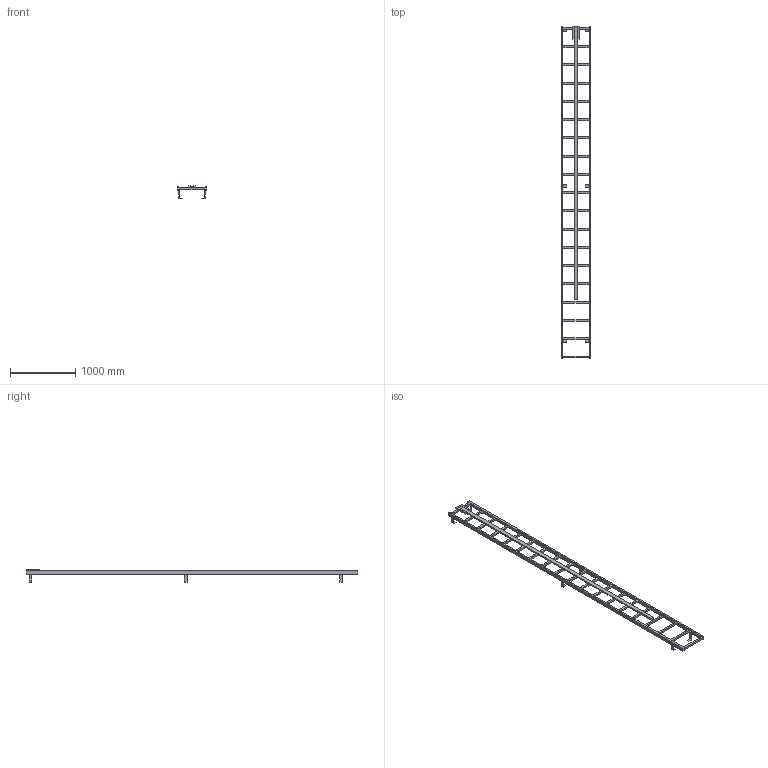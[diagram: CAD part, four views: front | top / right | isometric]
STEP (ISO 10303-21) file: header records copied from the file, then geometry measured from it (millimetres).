
FILE_DESCRIPTION((''),'2;1');
FILE_NAME('017_000109','2017-06-19T',('set'),('HUBER SE'),'PRO/ENGINEER BY PARAMETRIC TECHNOLOGY CORPORATION, 2015280','PRO/ENGINEER BY PARAMETRIC TECHNOLOGY CORPORATION, 2015280','');
FILE_SCHEMA(('CONFIG_CONTROL_DESIGN'));
Length unit declared in the file: millimetre
Products named in the file (1): 017_000109
Bounding box: 450 x 5090 x 195 mm (x, y, z)
Volume: 27448740 mm3; surface area: 3295460 mm2
Topology: 1 solids, 1 shells, 178 faces, 647 edges, 439 vertices
Faces by surface type: plane 178
Entity records: 6732 total; most frequent: CARTESIAN_POINT 1324, ORIENTED_EDGE 1092, DIRECTION 996, VECTOR 600, LINE 600, EDGE_CURVE 546, VERTEX_POINT 338, EDGE_LOOP 210
